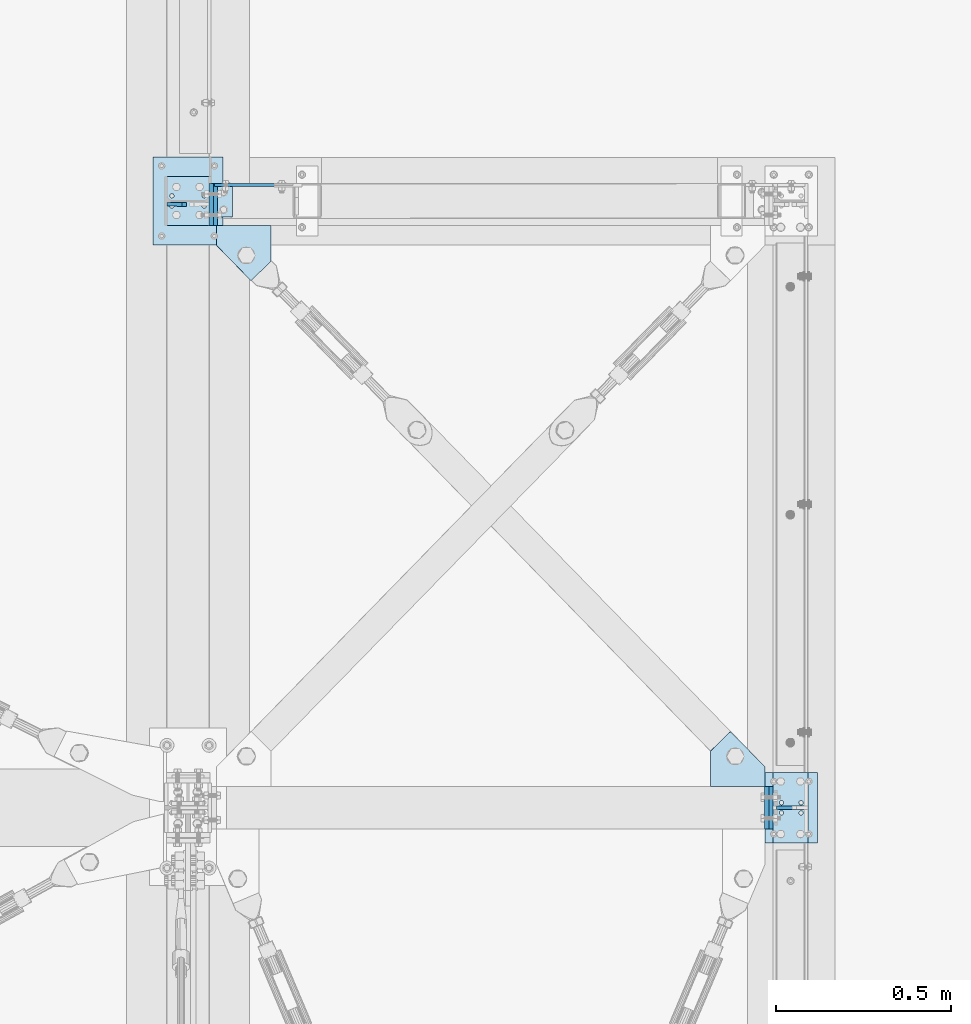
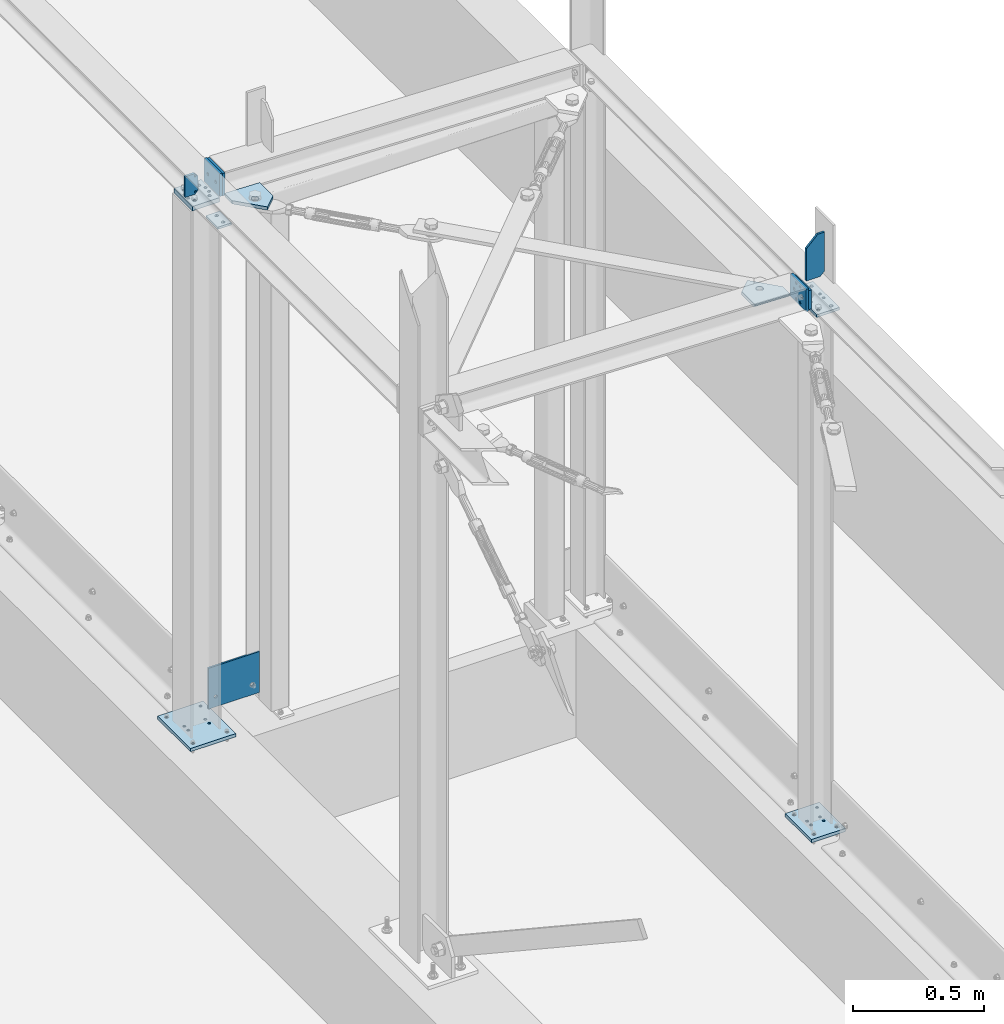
# One storey, part 63 of 476: 14 plates, 63 openings.
"""IFC2X3 building model written with IfcOpenShell, lengths in millimetres."""

from ifc_helpers import new_model, entity, si_unit, converted_unit, point, frame, frame_2d, origin, origin_with_axes, origin_2d_with_axis, place, context, project, spatial, polyline, circle_curve, line_curve, trimmed, segment, composite_curve, circle, outline, extrude, material, layer, layer_set, element, save


model = new_model("IFC2X3")

# Units and contexts
model_context = context("Model", 3, precision=1e-09, world=origin_with_axes())
ifc_project = project(units=[si_unit("LENGTHUNIT", "METRE", prefix="MILLI"), si_unit("AREAUNIT", "SQUARE_METRE"), si_unit("VOLUMEUNIT", "CUBIC_METRE"), converted_unit("PLANEANGLEUNIT", "DEGREE", entity("IfcPlaneAngleMeasure", 0.01745329), si_unit("PLANEANGLEUNIT", "RADIAN"), dimensions=[0, 0, 0, 0, 0, 0, 0])], contexts=[model_context])

# Site, building, storey
site_placement = place(None, origin_with_axes())
site = spatial("IfcSite", under=ifc_project, at=site_placement, Name="mKR Teilneubau & Sanierung BA1 - Ostfildern", CompositionType="ELEMENT")
building_placement = place(site_placement, origin_with_axes())
building = spatial("IfcBuilding", under=site, at=building_placement, Name="Struktur 1", CompositionType="ELEMENT")
storey_placement = place(building_placement, origin_with_axes())
storey = spatial("IfcBuildingStorey", under=building, at=storey_placement, Name="Default Storey", CompositionType="ELEMENT", Elevation=0.0)

# Plate, openings
ifc_material = material(Name="S235JR")
ifc_layer_1 = layer(ifc_material, 15.0)
ifc_layer_set_1 = layer_set([ifc_layer_1], Name="S235JR")
plate_1_placement = place(None, frame((22202.538978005, -4288.67387897, 3019.094751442), z_axis=(0.029057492, 0.0, 0.999577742), x_axis=(-0.999577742, 0.0, 0.029057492)))
plate_1 = element("IfcPlate", 1, at=plate_1_placement, inside=storey, material=ifc_layer_set_1, Name="-", ObjectType="-", context=model_context, shape_type="SweptSolid", body=[
    extrude(outline(polyline([(0.0, 0.0), (155.058825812, 0.0), (155.058825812, 57.239054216), (57.223526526, 157.380225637), (0.0, 101.474340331), (0.0, 0.0)])), origin_with_axes(), (0.0, 0.0, -1.0), 15.0),
])
opening_1_placement = place(plate_1_placement, frame((-0.001, 0.0, -15.0), z_axis=(1.0, 0.0, 0.0), x_axis=(0.0, 1.0, 0.0)))
element("IfcOpeningElement", 2, at=opening_1_placement, cuts=plate_1, ObjectType="Opening", context=model_context, shape_type="SweptSolid", body=[
    extrude(outline(polyline([(0.0, 0.0), (8.0, 0.0), (0.0, 8.0), (0.0, 0.0)])), origin(), (0.0, 0.0, 1.0), 155.080825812),
])
opening_2_placement = place(plate_1_placement, frame((70.541177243, 70.78287896, -15.5), z_axis=(0.0, 0.0, -1.0), x_axis=(-1.0, 0.0, 0.0)))
element("IfcOpeningElement", 3, at=opening_2_placement, cuts=plate_1, ObjectType="Opening", context=model_context, shape_type="SweptSolid", body=[
    extrude(circle(Radius=14.501, at=frame_2d((0.0, 14.501), x_axis=(1.0, 0.0))), origin(), (0.0, 0.0, -1.0), 16.0),
])

ifc_layer_2 = layer(ifc_material, 10.0)
ifc_layer_set_2 = layer_set([ifc_layer_2], Name="S235JR")
plate_2_placement = place(None, frame((23643.608764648, -5943.67387897, 3266.000000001), z_axis=(0.0, 1.0, 0.0), x_axis=(1.0, 0.0, 0.0)))
plate_2 = element("IfcPlate", 4, at=plate_2_placement, inside=storey, material=ifc_layer_set_2, Name="-", ObjectType="-", context=model_context, shape_type="SweptSolid", body=[
    extrude(outline(polyline([(0.0, 0.0), (80.0, 0.0), (80.0, 200.0), (0.0, 200.0), (0.0, 0.0)])), origin_with_axes(), (0.0, 0.0, -1.0), 10.0),
])
opening_3_placement = place(plate_2_placement, frame((0.0, 0.0, 0.01), z_axis=(0.0, 0.0, 1.0), x_axis=(1.0, 0.0, 0.0)))
element("IfcOpeningElement", 5, at=opening_3_placement, cuts=plate_2, ObjectType="Opening", context=model_context, shape_type="SweptSolid", body=[
    extrude(outline(polyline([(0.0, 0.0), (50.0, 0.0), (0.0, 50.0), (0.0, 0.0)])), origin(), (0.0, 0.0, -1.0), 10.02),
])
opening_4_placement = place(plate_2_placement, frame((80.0, 200.0, 0.01), z_axis=(0.0, 0.0, 1.0), x_axis=(-1.0, 0.0, 0.0)))
element("IfcOpeningElement", 6, at=opening_4_placement, cuts=plate_2, ObjectType="Opening", context=model_context, shape_type="SweptSolid", body=[
    extrude(outline(polyline([(0.0, 0.0), (20.0, 0.0), (0.0, 20.0), (0.0, 0.0)])), origin(), (0.0, 0.0, -1.0), 10.02),
])

plate_3_placement = place(None, frame((22062.108764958, -4218.67387897, 2845.0), z_axis=(0.0, 0.0, -1.0), x_axis=(1.0, 0.0, 0.0)))
plate_3 = element("IfcPlate", 7, at=plate_3_placement, inside=storey, material=ifc_layer_set_2, Name="-", ObjectType="-", context=model_context, shape_type="SweptSolid", body=[
    extrude(outline(polyline([(-30.0, -45.0), (30.0, -45.0), (30.0, 45.0), (-30.0, 45.0), (-30.0, -45.0)])), origin_with_axes(), (0.0, 0.0, -1.0), 10.0),
])
opening_5_placement = place(plate_3_placement, frame((-2.001, 25.0, 0.5), z_axis=(0.0, 0.0, 1.0), x_axis=(1.0, 0.0, 0.0)))
element("IfcOpeningElement", 8, at=opening_5_placement, cuts=plate_3, ObjectType="Opening", context=model_context, shape_type="SweptSolid", body=[
    extrude(circle(Radius=7.001, at=frame_2d((7.001, 0.0), x_axis=(1.0, 0.0))), origin(), (0.0, 0.0, -1.0), 11.0),
])
opening_6_placement = place(plate_3_placement, frame((-2.001, -25.0, 0.5), z_axis=(0.0, 0.0, 1.0), x_axis=(1.0, 0.0, 0.0)))
element("IfcOpeningElement", 9, at=opening_6_placement, cuts=plate_3, ObjectType="Opening", context=model_context, shape_type="SweptSolid", body=[
    extrude(circle(Radius=7.001, at=frame_2d((7.001, 0.0), x_axis=(1.0, 0.0))), origin(), (0.0, 0.0, -1.0), 11.0),
])

ifc_layer_3 = layer(ifc_material, 12.0)
ifc_layer_set_3 = layer_set([ifc_layer_3], Name="S235JR")
plate_4_placement = place(None, frame((23683.608764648, -5948.67387897, 2958.0), z_axis=(0.0, 0.0, 1.0), x_axis=(-1.0, 0.0, 0.0)))
plate_4 = element("IfcPlate", 10, at=plate_4_placement, inside=storey, material=ifc_layer_set_3, Name="Endplate", ObjectType="Endplate", context=model_context, shape_type="SweptSolid", body=[
    extrude(outline(polyline([(-50.0, -100.0), (50.0, -100.0), (50.0, 100.0), (-50.0, 100.0), (-50.0, -100.0)])), origin_with_axes(), (0.0, 0.0, 1.0), 12.0),
])
opening_7_placement = place(plate_4_placement, frame((26.0, -14.5, 12.5), z_axis=(0.0, 0.0, -1.0), x_axis=(1.0, 0.0, 0.0)))
element("IfcOpeningElement", 11, at=opening_7_placement, cuts=plate_4, ObjectType="Opening", context=model_context, shape_type="SweptSolid", body=[
    extrude(circle(Radius=6.001, at=origin_2d_with_axis()), origin(), (0.0, 0.0, 1.0), 13.0),
])
opening_8_placement = place(plate_4_placement, frame((-30.0, -14.5, 12.5), z_axis=(0.0, 0.0, -1.0), x_axis=(1.0, 0.0, 0.0)))
element("IfcOpeningElement", 12, at=opening_8_placement, cuts=plate_4, ObjectType="Opening", context=model_context, shape_type="SweptSolid", body=[
    extrude(circle(Radius=6.001, at=origin_2d_with_axis()), origin(), (0.0, 0.0, 1.0), 13.0),
])
opening_9_placement = place(plate_4_placement, frame((-30.0, 14.5, 12.5), z_axis=(0.0, 0.0, -1.0), x_axis=(1.0, 0.0, 0.0)))
element("IfcOpeningElement", 13, at=opening_9_placement, cuts=plate_4, ObjectType="Opening", context=model_context, shape_type="SweptSolid", body=[
    extrude(circle(Radius=6.001, at=origin_2d_with_axis()), origin(), (0.0, 0.0, 1.0), 13.0),
])
opening_10_placement = place(plate_4_placement, frame((26.0, 14.5, 12.5), z_axis=(0.0, 0.0, -1.0), x_axis=(1.0, 0.0, 0.0)))
element("IfcOpeningElement", 14, at=opening_10_placement, cuts=plate_4, ObjectType="Opening", context=model_context, shape_type="SweptSolid", body=[
    extrude(circle(Radius=6.001, at=origin_2d_with_axis()), origin(), (0.0, 0.0, 1.0), 13.0),
])
opening_11_placement = place(plate_4_placement, frame((-50.0, 50.001, 0.0), z_axis=(0.0, -1.0, 0.0), x_axis=(1.0, 0.0, 0.0)))
element("IfcOpeningElement", 15, at=opening_11_placement, cuts=plate_4, ObjectType="Opening", context=model_context, shape_type="SweptSolid", body=[
    extrude(outline(polyline([(0.0, 0.0), (4.0, 0.0), (0.0, 4.0), (0.0, 0.0)])), origin(), (0.0, 0.0, 1.0), 100.022),
])
opening_12_placement = place(plate_4_placement, frame((28.0, -67.999, -0.5), z_axis=(0.0, 0.0, -1.0), x_axis=(-1.0, 0.0, 0.0)))
element("IfcOpeningElement", 16, at=opening_12_placement, cuts=plate_4, ObjectType="Opening", context=model_context, shape_type="SweptSolid", body=[
    extrude(circle(Radius=7.001, at=frame_2d((0.0, -7.001), x_axis=(1.0, 0.0))), origin(), (0.0, 0.0, -1.0), 13.0),
])
opening_13_placement = place(plate_4_placement, frame((-28.0, 67.999, -0.5), z_axis=(0.0, 0.0, -1.0), x_axis=(-1.0, 0.0, 0.0)))
element("IfcOpeningElement", 17, at=opening_13_placement, cuts=plate_4, ObjectType="Opening", context=model_context, shape_type="SweptSolid", body=[
    extrude(circle(Radius=7.001, at=frame_2d((0.0, 7.001), x_axis=(1.0, 0.0))), origin(), (0.0, 0.0, -1.0), 13.0),
])
opening_14_placement = place(plate_4_placement, frame((-28.0, -67.999, -0.5), z_axis=(0.0, 0.0, -1.0), x_axis=(-1.0, 0.0, 0.0)))
element("IfcOpeningElement", 18, at=opening_14_placement, cuts=plate_4, ObjectType="Opening", context=model_context, shape_type="SweptSolid", body=[
    extrude(circle(Radius=7.001, at=frame_2d((0.0, -7.001), x_axis=(1.0, 0.0))), origin(), (0.0, 0.0, -1.0), 13.0),
])
opening_15_placement = place(plate_4_placement, frame((28.0, 67.999, -0.5), z_axis=(0.0, 0.0, -1.0), x_axis=(-1.0, 0.0, 0.0)))
element("IfcOpeningElement", 19, at=opening_15_placement, cuts=plate_4, ObjectType="Opening", context=model_context, shape_type="SweptSolid", body=[
    extrude(circle(Radius=7.001, at=frame_2d((0.0, 7.001), x_axis=(1.0, 0.0))), origin(), (0.0, 0.0, -1.0), 13.0),
])

plate_5_placement = place(None, frame((23454.614413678, -5888.67387897, 2967.690873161), z_axis=(0.029057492, 0.0, 0.999577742), x_axis=(0.999577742, 0.0, -0.029057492)))
plate_5 = element("IfcPlate", 20, at=plate_5_placement, inside=storey, material=ifc_layer_set_1, Name="-", ObjectType="-", context=model_context, shape_type="SweptSolid", body=[
    extrude(outline(polyline([(0.0, 0.0), (155.058825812, 0.0), (155.058825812, 57.239054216), (57.223526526, 157.380225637), (0.0, 101.474340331), (0.0, 0.0)])), origin_with_axes(), (0.0, 0.0, 1.0), 15.0),
])
opening_16_placement = place(plate_5_placement, frame((-0.001, 0.0, 0.0), z_axis=(1.0, 0.0, 0.0), x_axis=(0.0, 1.0, 0.0)))
element("IfcOpeningElement", 21, at=opening_16_placement, cuts=plate_5, ObjectType="Opening", context=model_context, shape_type="SweptSolid", body=[
    extrude(outline(polyline([(0.0, 0.0), (8.0, 0.0), (0.0, 8.0), (0.0, 0.0)])), origin(), (0.0, 0.0, 1.0), 155.080825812),
])
opening_17_placement = place(plate_5_placement, frame((70.610420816, 86.577287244, -0.5), z_axis=(0.0, 0.0, 1.0), x_axis=(0.0, 1.0, 0.0)))
element("IfcOpeningElement", 22, at=opening_17_placement, cuts=plate_5, ObjectType="Opening", context=model_context, shape_type="SweptSolid", body=[
    extrude(circle(Radius=14.501, at=origin_2d_with_axis()), origin(), (0.0, 0.0, 1.0), 16.0),
])

ifc_layer_4 = layer(ifc_material, 8.0)
ifc_layer_set_4 = layer_set([ifc_layer_4], Name="S235JR")
plate_6_placement = place(None, frame((22153.108264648, -4176.67387897, 655.0), z_axis=(0.0, 1.0, 0.0), x_axis=(0.0, 0.0, 1.0)))
plate_6 = element("IfcPlate", 23, at=plate_6_placement, inside=storey, material=ifc_layer_set_4, Name="-", ObjectType="-", context=model_context, shape_type="SweptSolid", body=[
    extrude(outline(polyline([(-95.0, -112.4995), (95.0, -112.4995), (95.0, 112.4995), (-95.0, 112.4995), (-95.0, -112.4995)])), origin_with_axes(), (0.0, 0.0, 1.0), 8.0),
])
opening_18_placement = place(plate_6_placement, frame((-47.0, 0.0, -0.5), z_axis=(0.0, 0.0, 1.0), x_axis=(0.0, -1.0, 0.0)))
element("IfcOpeningElement", 24, at=opening_18_placement, cuts=plate_6, ObjectType="Opening", context=model_context, shape_type="SweptSolid", body=[
    extrude(circle(Radius=7.001, at=frame_2d((80.0, 0.0), x_axis=(1.0, 0.0))), origin(), (0.0, 0.0, 1.0), 9.0),
])
opening_19_placement = place(plate_6_placement, frame((-47.0, 0.0, -0.5), z_axis=(0.0, 0.0, 1.0), x_axis=(0.0, -1.0, 0.0)))
element("IfcOpeningElement", 25, at=opening_19_placement, cuts=plate_6, ObjectType="Opening", context=model_context, shape_type="SweptSolid", body=[
    extrude(circle(Radius=7.001, at=frame_2d((-80.0, 0.0), x_axis=(1.0, 0.0))), origin(), (0.0, 0.0, 1.0), 9.0),
])

plate_7_placement = place(None, frame((22065.608764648, -4093.67387897, 540.0), z_axis=(0.0, 0.0, -1.0), x_axis=(0.0, -1.0, 0.0)))
plate_7 = element("IfcPlate", 26, at=plate_7_placement, inside=storey, material=ifc_layer_set_1, Name="Baseplate", ObjectType="Baseplate", context=model_context, shape_type="SweptSolid", body=[
    extrude(outline(polyline([(0.0, 0.0), (250.0, 0.0), (250.0, 200.0), (0.0, 200.0), (0.0, 0.0)])), origin_with_axes(), (0.0, 0.0, 1.0), 15.0),
])
opening_20_placement = place(plate_7_placement, frame((110.25, 146.0, 15.5), z_axis=(0.0, 0.0, -1.0), x_axis=(0.0, -1.0, 0.0)))
element("IfcOpeningElement", 27, at=opening_20_placement, cuts=plate_7, ObjectType="Opening", context=model_context, shape_type="SweptSolid", body=[
    extrude(circle(Radius=6.001, at=origin_2d_with_axis()), origin(), (0.0, 0.0, 1.0), 16.0),
])
opening_21_placement = place(plate_7_placement, frame((110.25, 54.0, 15.5), z_axis=(0.0, 0.0, -1.0), x_axis=(0.0, -1.0, 0.0)))
element("IfcOpeningElement", 28, at=opening_21_placement, cuts=plate_7, ObjectType="Opening", context=model_context, shape_type="SweptSolid", body=[
    extrude(circle(Radius=6.001, at=origin_2d_with_axis()), origin(), (0.0, 0.0, 1.0), 16.0),
])
opening_22_placement = place(plate_7_placement, frame((139.75, 54.0, 15.5), z_axis=(0.0, 0.0, -1.0), x_axis=(0.0, -1.0, 0.0)))
element("IfcOpeningElement", 29, at=opening_22_placement, cuts=plate_7, ObjectType="Opening", context=model_context, shape_type="SweptSolid", body=[
    extrude(circle(Radius=6.001, at=origin_2d_with_axis()), origin(), (0.0, 0.0, 1.0), 16.0),
])
opening_23_placement = place(plate_7_placement, frame((139.75, 146.0, 15.5), z_axis=(0.0, 0.0, -1.0), x_axis=(0.0, -1.0, 0.0)))
element("IfcOpeningElement", 30, at=opening_23_placement, cuts=plate_7, ObjectType="Opening", context=model_context, shape_type="SweptSolid", body=[
    extrude(circle(Radius=6.001, at=origin_2d_with_axis()), origin(), (0.0, 0.0, 1.0), 16.0),
])
opening_24_placement = place(plate_7_placement, frame((125.0, 100.0, 15.5), z_axis=(0.0, 0.0, -1.0), x_axis=(1.0, 0.0, 0.0)))
element("IfcOpeningElement", 31, at=opening_24_placement, cuts=plate_7, ObjectType="Opening", context=model_context, shape_type="SweptSolid", body=[
    extrude(circle(Radius=6.001, at=frame_2d((100.0, 75.0), x_axis=(1.0, 0.0))), origin(), (0.0, 0.0, 1.0), 16.0),
])
opening_25_placement = place(plate_7_placement, frame((125.0, 100.0, 15.5), z_axis=(0.0, 0.0, -1.0), x_axis=(1.0, 0.0, 0.0)))
element("IfcOpeningElement", 32, at=opening_25_placement, cuts=plate_7, ObjectType="Opening", context=model_context, shape_type="SweptSolid", body=[
    extrude(circle(Radius=6.001, at=frame_2d((-100.0, 75.0), x_axis=(1.0, 0.0))), origin(), (0.0, 0.0, 1.0), 16.0),
])
opening_26_placement = place(plate_7_placement, frame((125.0, 100.0, 15.5), z_axis=(0.0, 0.0, -1.0), x_axis=(1.0, 0.0, 0.0)))
element("IfcOpeningElement", 33, at=opening_26_placement, cuts=plate_7, ObjectType="Opening", context=model_context, shape_type="SweptSolid", body=[
    extrude(circle(Radius=6.001, at=frame_2d((100.0, -75.0), x_axis=(1.0, 0.0))), origin(), (0.0, 0.0, 1.0), 16.0),
])
opening_27_placement = place(plate_7_placement, frame((125.0, 100.0, 15.5), z_axis=(0.0, 0.0, -1.0), x_axis=(1.0, 0.0, 0.0)))
element("IfcOpeningElement", 34, at=opening_27_placement, cuts=plate_7, ObjectType="Opening", context=model_context, shape_type="SweptSolid", body=[
    extrude(circle(Radius=6.001, at=frame_2d((-100.0, -75.0), x_axis=(1.0, 0.0))), origin(), (0.0, 0.0, 1.0), 16.0),
])

plate_8_placement = place(None, frame((23760.608764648, -5848.67387897, 540.0), z_axis=(0.0, 0.0, -1.0), x_axis=(0.0, -1.0, 0.0)))
plate_8 = element("IfcPlate", 35, at=plate_8_placement, inside=storey, material=ifc_layer_set_1, Name="Baseplate", ObjectType="Baseplate", context=model_context, shape_type="SweptSolid", body=[
    extrude(outline(polyline([(0.0, 0.0), (200.0, 0.0), (200.0, 150.0), (0.0, 150.0), (0.0, 0.0)])), origin_with_axes(), (0.0, 0.0, 1.0), 15.0),
])
opening_28_placement = place(plate_8_placement, frame((85.5, 103.0, 15.5), z_axis=(0.0, 0.0, -1.0), x_axis=(0.0, -1.0, 0.0)))
element("IfcOpeningElement", 36, at=opening_28_placement, cuts=plate_8, ObjectType="Opening", context=model_context, shape_type="SweptSolid", body=[
    extrude(circle(Radius=6.001, at=origin_2d_with_axis()), origin(), (0.0, 0.0, 1.0), 16.0),
])
opening_29_placement = place(plate_8_placement, frame((85.5, 47.0, 15.5), z_axis=(0.0, 0.0, -1.0), x_axis=(0.0, -1.0, 0.0)))
element("IfcOpeningElement", 37, at=opening_29_placement, cuts=plate_8, ObjectType="Opening", context=model_context, shape_type="SweptSolid", body=[
    extrude(circle(Radius=6.001, at=origin_2d_with_axis()), origin(), (0.0, 0.0, 1.0), 16.0),
])
opening_30_placement = place(plate_8_placement, frame((114.5, 47.0, 15.5), z_axis=(0.0, 0.0, -1.0), x_axis=(0.0, -1.0, 0.0)))
element("IfcOpeningElement", 38, at=opening_30_placement, cuts=plate_8, ObjectType="Opening", context=model_context, shape_type="SweptSolid", body=[
    extrude(circle(Radius=6.001, at=origin_2d_with_axis()), origin(), (0.0, 0.0, 1.0), 16.0),
])
opening_31_placement = place(plate_8_placement, frame((114.5, 103.0, 15.5), z_axis=(0.0, 0.0, -1.0), x_axis=(0.0, -1.0, 0.0)))
element("IfcOpeningElement", 39, at=opening_31_placement, cuts=plate_8, ObjectType="Opening", context=model_context, shape_type="SweptSolid", body=[
    extrude(circle(Radius=6.001, at=origin_2d_with_axis()), origin(), (0.0, 0.0, 1.0), 16.0),
])
opening_32_placement = place(plate_8_placement, frame((100.0, 75.0, 15.5), z_axis=(0.0, 0.0, -1.0), x_axis=(1.0, 0.0, 0.0)))
element("IfcOpeningElement", 40, at=opening_32_placement, cuts=plate_8, ObjectType="Opening", context=model_context, shape_type="SweptSolid", body=[
    extrude(circle(Radius=6.001, at=frame_2d((75.0, 50.0), x_axis=(1.0, 0.0))), origin(), (0.0, 0.0, 1.0), 16.0),
])
opening_33_placement = place(plate_8_placement, frame((100.0, 75.0, 15.5), z_axis=(0.0, 0.0, -1.0), x_axis=(1.0, 0.0, 0.0)))
element("IfcOpeningElement", 41, at=opening_33_placement, cuts=plate_8, ObjectType="Opening", context=model_context, shape_type="SweptSolid", body=[
    extrude(circle(Radius=6.001, at=frame_2d((-75.0, 50.0), x_axis=(1.0, 0.0))), origin(), (0.0, 0.0, 1.0), 16.0),
])
opening_34_placement = place(plate_8_placement, frame((100.0, 75.0, 15.5), z_axis=(0.0, 0.0, -1.0), x_axis=(1.0, 0.0, 0.0)))
element("IfcOpeningElement", 42, at=opening_34_placement, cuts=plate_8, ObjectType="Opening", context=model_context, shape_type="SweptSolid", body=[
    extrude(circle(Radius=6.001, at=frame_2d((75.0, -50.0), x_axis=(1.0, 0.0))), origin(), (0.0, 0.0, 1.0), 16.0),
])
opening_35_placement = place(plate_8_placement, frame((100.0, 75.0, 15.5), z_axis=(0.0, 0.0, -1.0), x_axis=(1.0, 0.0, 0.0)))
element("IfcOpeningElement", 43, at=opening_35_placement, cuts=plate_8, ObjectType="Opening", context=model_context, shape_type="SweptSolid", body=[
    extrude(circle(Radius=6.001, at=frame_2d((-75.0, -50.0), x_axis=(1.0, 0.0))), origin(), (0.0, 0.0, 1.0), 16.0),
])

plate_9_placement = place(None, frame((23609.608764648, -5948.67387897, 3020.209302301), z_axis=(1.0, 0.0, 0.0), x_axis=(0.0, 0.0, -1.0)))
plate_9 = element("IfcPlate", 44, at=plate_9_placement, inside=storey, material=ifc_layer_set_3, Name="Endplate#1", ObjectType="Endplate#1", context=model_context, shape_type="SweptSolid", body=[
    extrude(outline(polyline([(-52.024078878, -60.0), (52.024078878, -60.0), (52.024078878, 60.0), (-52.024078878, 60.0), (-52.024078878, -60.0)])), origin_with_axes(), (0.0, 0.0, 1.0), 12.0),
])
opening_36_placement = place(plate_9_placement, frame((-37.020699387, -14.5, 12.5), z_axis=(0.0, 0.0, -1.0), x_axis=(1.0, 0.0, 0.0)))
element("IfcOpeningElement", 45, at=opening_36_placement, cuts=plate_9, ObjectType="Opening", context=model_context, shape_type="SweptSolid", body=[
    extrude(circle(Radius=6.001, at=origin_2d_with_axis()), origin(), (0.0, 0.0, 1.0), 13.0),
])
opening_37_placement = place(plate_9_placement, frame((37.020699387, -14.5, 12.5), z_axis=(0.0, 0.0, -1.0), x_axis=(1.0, 0.0, 0.0)))
element("IfcOpeningElement", 46, at=opening_37_placement, cuts=plate_9, ObjectType="Opening", context=model_context, shape_type="SweptSolid", body=[
    extrude(circle(Radius=6.001, at=origin_2d_with_axis()), origin(), (0.0, 0.0, 1.0), 13.0),
])
opening_38_placement = place(plate_9_placement, frame((37.020699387, 14.5, 12.5), z_axis=(0.0, 0.0, -1.0), x_axis=(1.0, 0.0, 0.0)))
element("IfcOpeningElement", 47, at=opening_38_placement, cuts=plate_9, ObjectType="Opening", context=model_context, shape_type="SweptSolid", body=[
    extrude(circle(Radius=6.001, at=origin_2d_with_axis()), origin(), (0.0, 0.0, 1.0), 13.0),
])
opening_39_placement = place(plate_9_placement, frame((-37.020699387, 14.5, 12.5), z_axis=(0.0, 0.0, -1.0), x_axis=(1.0, 0.0, 0.0)))
element("IfcOpeningElement", 48, at=opening_39_placement, cuts=plate_9, ObjectType="Opening", context=model_context, shape_type="SweptSolid", body=[
    extrude(circle(Radius=6.001, at=origin_2d_with_axis()), origin(), (0.0, 0.0, 1.0), 13.0),
])
opening_40_placement = place(plate_9_placement, frame((0.0, 30.0, 12.5), z_axis=(0.0, 0.0, -1.0), x_axis=(-1.0, 0.0, 0.0)))
element("IfcOpeningElement", 49, at=opening_40_placement, cuts=plate_9, ObjectType="Opening", context=model_context, shape_type="SweptSolid", body=[
    extrude(circle(Radius=7.001, at=origin_2d_with_axis()), origin(), (0.0, 0.0, 1.0), 13.0),
])
opening_41_placement = place(plate_9_placement, frame((0.0, -30.0, 12.5), z_axis=(0.0, 0.0, -1.0), x_axis=(0.0, -1.0, 0.0)))
element("IfcOpeningElement", 50, at=opening_41_placement, cuts=plate_9, ObjectType="Opening", context=model_context, shape_type="SweptSolid", body=[
    extrude(circle(Radius=7.001, at=origin_2d_with_axis()), origin(), (0.0, 0.0, 1.0), 13.0),
])

plate_10_placement = place(None, frame((23633.608764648, -5948.67387897, 3018.0), z_axis=(-1.0, 0.0, 0.0), x_axis=(0.0, -1.0, 0.0)))
plate_10 = element("IfcPlate", 51, at=plate_10_placement, inside=storey, material=ifc_layer_set_3, Name="T-plate", ObjectType="T-plate", context=model_context, shape_type="SweptSolid", body=[
    extrude(outline(polyline([(-60.0, -44.0), (60.0, -44.0), (60.0, 44.0), (-60.0, 44.0), (-60.0, -44.0)])), origin_with_axes(), (0.0, 0.0, 1.0), 12.0),
])
opening_42_placement = place(plate_10_placement, frame((30.0, 2.209302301, -0.5), z_axis=(0.0, 0.0, 1.0), x_axis=(1.0, 0.0, 0.0)))
element("IfcOpeningElement", 52, at=opening_42_placement, cuts=plate_10, ObjectType="Opening", context=model_context, shape_type="SweptSolid", body=[
    extrude(circle(Radius=7.001, at=origin_2d_with_axis()), origin(), (0.0, 0.0, 1.0), 13.0),
])
opening_43_placement = place(plate_10_placement, frame((-30.0, 2.209302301, -0.5), z_axis=(0.0, 0.0, 1.0), x_axis=(0.0, 1.0, 0.0)))
element("IfcOpeningElement", 53, at=opening_43_placement, cuts=plate_10, ObjectType="Opening", context=model_context, shape_type="SweptSolid", body=[
    extrude(circle(Radius=7.001, at=origin_2d_with_axis()), origin(), (0.0, 0.0, 1.0), 13.0),
])

ifc_layer_5 = layer(ifc_material, 20.0)
ifc_layer_set_5 = layer_set([ifc_layer_5], Name="S235JR")
plate_11_placement = place(None, frame((21965.608764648, -4218.67387897, 2991.000017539), z_axis=(0.0, 0.0, 1.0), x_axis=(-1.0, 0.0, 0.0)))
plate_11 = element("IfcPlate", 54, at=plate_11_placement, inside=storey, material=ifc_layer_set_5, Name="Endplate", ObjectType="Endplate", context=model_context, shape_type="SweptSolid", body=[
    extrude(outline(polyline([(-60.0, -70.0), (60.0, -70.0), (60.0, 70.0), (-60.0, 70.0), (-60.0, -70.0)])), origin_with_axes(), (0.0, 0.0, 1.0), 20.0),
])
opening_44_placement = place(plate_11_placement, frame((46.0, -14.75, 20.5), z_axis=(0.0, 0.0, -1.0), x_axis=(1.0, 0.0, 0.0)))
element("IfcOpeningElement", 55, at=opening_44_placement, cuts=plate_11, ObjectType="Opening", context=model_context, shape_type="SweptSolid", body=[
    extrude(circle(Radius=6.001, at=origin_2d_with_axis()), origin(), (0.0, 0.0, 1.0), 21.0),
])
opening_45_placement = place(plate_11_placement, frame((-46.0, -14.75, 20.5), z_axis=(0.0, 0.0, -1.0), x_axis=(1.0, 0.0, 0.0)))
element("IfcOpeningElement", 56, at=opening_45_placement, cuts=plate_11, ObjectType="Opening", context=model_context, shape_type="SweptSolid", body=[
    extrude(circle(Radius=6.001, at=origin_2d_with_axis()), origin(), (0.0, 0.0, 1.0), 21.0),
])
opening_46_placement = place(plate_11_placement, frame((-46.0, 14.75, 20.5), z_axis=(0.0, 0.0, -1.0), x_axis=(1.0, 0.0, 0.0)))
element("IfcOpeningElement", 57, at=opening_46_placement, cuts=plate_11, ObjectType="Opening", context=model_context, shape_type="SweptSolid", body=[
    extrude(circle(Radius=6.001, at=origin_2d_with_axis()), origin(), (0.0, 0.0, 1.0), 21.0),
])
opening_47_placement = place(plate_11_placement, frame((46.0, 14.75, 20.5), z_axis=(0.0, 0.0, -1.0), x_axis=(1.0, 0.0, 0.0)))
element("IfcOpeningElement", 58, at=opening_47_placement, cuts=plate_11, ObjectType="Opening", context=model_context, shape_type="SweptSolid", body=[
    extrude(circle(Radius=6.001, at=origin_2d_with_axis()), origin(), (0.0, 0.0, 1.0), 21.0),
])
opening_48_placement = place(plate_11_placement, frame((-33.0, 32.999, -0.5), z_axis=(0.0, 0.0, -1.0), x_axis=(-1.0, 0.0, 0.0)))
element("IfcOpeningElement", 59, at=opening_48_placement, cuts=plate_11, ObjectType="Opening", context=model_context, shape_type="SweptSolid", body=[
    extrude(circle(Radius=7.001, at=frame_2d((0.0, 7.001), x_axis=(1.0, 0.0))), origin(), (0.0, 0.0, -1.0), 21.0),
])
opening_49_placement = place(plate_11_placement, frame((33.0, 32.999, -0.5), z_axis=(0.0, 0.0, -1.0), x_axis=(-1.0, 0.0, 0.0)))
element("IfcOpeningElement", 60, at=opening_49_placement, cuts=plate_11, ObjectType="Opening", context=model_context, shape_type="SweptSolid", body=[
    extrude(circle(Radius=7.001, at=frame_2d((0.0, 7.001), x_axis=(1.0, 0.0))), origin(), (0.0, 0.0, -1.0), 21.0),
])
opening_50_placement = place(plate_11_placement, frame((33.0, -32.999, -0.5), z_axis=(0.0, 0.0, -1.0), x_axis=(-1.0, 0.0, 0.0)))
element("IfcOpeningElement", 61, at=opening_50_placement, cuts=plate_11, ObjectType="Opening", context=model_context, shape_type="SweptSolid", body=[
    extrude(circle(Radius=7.001, at=frame_2d((0.0, -7.001), x_axis=(1.0, 0.0))), origin(), (0.0, 0.0, -1.0), 21.0),
])
opening_51_placement = place(plate_11_placement, frame((-33.0, -32.999, -0.5), z_axis=(0.0, 0.0, -1.0), x_axis=(-1.0, 0.0, 0.0)))
element("IfcOpeningElement", 62, at=opening_51_placement, cuts=plate_11, ObjectType="Opening", context=model_context, shape_type="SweptSolid", body=[
    extrude(circle(Radius=7.001, at=frame_2d((0.0, -7.001), x_axis=(1.0, 0.0))), origin(), (0.0, 0.0, -1.0), 21.0),
])

plate_12_placement = place(None, frame((22049.608780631, -4228.67387897, 3065.558139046), z_axis=(-1.0, 0.0, 0.0), x_axis=(0.0, 0.0, -1.0)))
plate_12 = element("IfcPlate", 63, at=plate_12_placement, inside=storey, material=ifc_layer_set_3, Name="Endplate#1", ObjectType="Endplate#1", context=model_context, shape_type="SweptSolid", body=[
    extrude(outline(polyline([(-52.024078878, -60.0), (52.024078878, -60.0), (52.024078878, 60.0), (-52.024078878, 60.0), (-52.024078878, -60.0)])), origin_with_axes(), (0.0, 0.0, 1.0), 12.0),
])
opening_52_placement = place(plate_12_placement, frame((-37.020699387, 14.5, 12.5), z_axis=(0.0, 0.0, -1.0), x_axis=(-1.0, 0.0, 0.0)))
element("IfcOpeningElement", 64, at=opening_52_placement, cuts=plate_12, ObjectType="Opening", context=model_context, shape_type="SweptSolid", body=[
    extrude(circle(Radius=6.001, at=origin_2d_with_axis()), origin(), (0.0, 0.0, 1.0), 13.0),
])
opening_53_placement = place(plate_12_placement, frame((37.020699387, 14.5, 12.5), z_axis=(0.0, 0.0, -1.0), x_axis=(-1.0, 0.0, 0.0)))
element("IfcOpeningElement", 65, at=opening_53_placement, cuts=plate_12, ObjectType="Opening", context=model_context, shape_type="SweptSolid", body=[
    extrude(circle(Radius=6.001, at=origin_2d_with_axis()), origin(), (0.0, 0.0, 1.0), 13.0),
])
opening_54_placement = place(plate_12_placement, frame((37.020699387, -14.5, 12.5), z_axis=(0.0, 0.0, -1.0), x_axis=(-1.0, 0.0, 0.0)))
element("IfcOpeningElement", 66, at=opening_54_placement, cuts=plate_12, ObjectType="Opening", context=model_context, shape_type="SweptSolid", body=[
    extrude(circle(Radius=6.001, at=origin_2d_with_axis()), origin(), (0.0, 0.0, 1.0), 13.0),
])
opening_55_placement = place(plate_12_placement, frame((-37.020699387, -14.5, 12.5), z_axis=(0.0, 0.0, -1.0), x_axis=(-1.0, 0.0, 0.0)))
element("IfcOpeningElement", 67, at=opening_55_placement, cuts=plate_12, ObjectType="Opening", context=model_context, shape_type="SweptSolid", body=[
    extrude(circle(Radius=6.001, at=origin_2d_with_axis()), origin(), (0.0, 0.0, 1.0), 13.0),
])
opening_56_placement = place(plate_12_placement, frame((0.0, 30.0, 12.5), z_axis=(0.0, 0.0, -1.0), x_axis=(-1.0, 0.0, 0.0)))
element("IfcOpeningElement", 68, at=opening_56_placement, cuts=plate_12, ObjectType="Opening", context=model_context, shape_type="SweptSolid", body=[
    extrude(circle(Radius=7.001, at=origin_2d_with_axis()), origin(), (0.0, 0.0, 1.0), 13.0),
])
opening_57_placement = place(plate_12_placement, frame((0.0, -30.0, 12.5), z_axis=(0.0, 0.0, -1.0), x_axis=(0.0, -1.0, 0.0)))
element("IfcOpeningElement", 69, at=opening_57_placement, cuts=plate_12, ObjectType="Opening", context=model_context, shape_type="SweptSolid", body=[
    extrude(circle(Radius=7.001, at=origin_2d_with_axis()), origin(), (0.0, 0.0, 1.0), 13.0),
])

plate_13_placement = place(None, frame((22025.608780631, -4228.67387897, 3068.000017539), z_axis=(1.0, 0.0, 0.0), x_axis=(0.0, 1.0, 0.0)))
plate_13 = element("IfcPlate", 70, at=plate_13_placement, inside=storey, material=ifc_layer_set_3, Name="T-plate", ObjectType="T-plate", context=model_context, shape_type="SweptSolid", body=[
    extrude(outline(polyline([(-60.0, -53.0), (60.0, -53.0), (60.0, 53.0), (-60.0, 53.0), (-60.0, -53.0)])), origin_with_axes(), (0.0, 0.0, 1.0), 12.0),
])
opening_58_placement = place(plate_13_placement, frame((-30.0, -2.441878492, -0.5), z_axis=(0.0, 0.0, 1.0), x_axis=(0.0, 1.0, 0.0)))
element("IfcOpeningElement", 71, at=opening_58_placement, cuts=plate_13, ObjectType="Opening", context=model_context, shape_type="SweptSolid", body=[
    extrude(circle(Radius=7.001, at=origin_2d_with_axis()), origin(), (0.0, 0.0, 1.0), 13.0),
])
opening_59_placement = place(plate_13_placement, frame((30.0, -2.441878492, -0.5), z_axis=(0.0, 0.0, 1.0), x_axis=(1.0, 0.0, 0.0)))
element("IfcOpeningElement", 72, at=opening_59_placement, cuts=plate_13, ObjectType="Opening", context=model_context, shape_type="SweptSolid", body=[
    extrude(circle(Radius=7.001, at=origin_2d_with_axis()), origin(), (0.0, 0.0, 1.0), 13.0),
])

plate_14_placement = place(None, frame((21961.608780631, -4223.67387897, 3116.000017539), z_axis=(0.0, -1.0, 0.0), x_axis=(-1.0, 0.0, 0.0)))
plate_14 = element("IfcPlate", 73, at=plate_14_placement, inside=storey, material=ifc_layer_set_2, Name="Stiffener#2", ObjectType="Stiffener#2", context=model_context, shape_type="SweptSolid", body=[
    extrude(outline(polyline([(0.0, 0.0), (56.0, 0.0), (56.0, 96.0), (0.0, 96.0), (0.0, 0.0)])), origin_with_axes(), (0.0, 0.0, 1.0), 10.0),
])
opening_60_placement = place(plate_14_placement, frame((0.0, 0.0, -0.01), z_axis=(0.0, 0.0, 1.0), x_axis=(1.0, 0.0, 0.0)))
element("IfcOpeningElement", 74, at=opening_60_placement, cuts=plate_14, ObjectType="Opening", context=model_context, shape_type="SweptSolid", body=[
    extrude(outline(composite_curve([segment(trimmed(line_curve((0.0, 0.0), (1.0, 0.0), 13.0), [point((0.0, 0.0))], [point((13.0, 0.0))], True, "CARTESIAN"), True, "CONTINUOUS"), segment(trimmed(circle_curve(frame_2d((13.0, 13.0), x_axis=(-1.0, 0.0)), 13.0), [point((13.0, 0.0))], [point((0.0, 13.0))], False, "CARTESIAN"), True, "CONTINUOUS"), segment(trimmed(line_curve((0.0, 13.0), (0.0, -1.0), 13.0), [point((0.0, 13.0))], [point((0.0, 0.0))], True, "CARTESIAN"), True, "CONTINUOUS")], self_intersect=False)), origin(), (0.0, 0.0, 1.0), 10.02),
])
opening_61_placement = place(plate_14_placement, frame((0.0, 0.0, -0.01), z_axis=(0.0, 0.0, 1.0), x_axis=(1.0, 0.0, 0.0)))
element("IfcOpeningElement", 75, at=opening_61_placement, cuts=plate_14, ObjectType="Opening", context=model_context, shape_type="SweptSolid", body=[
    extrude(outline(composite_curve([segment(trimmed(line_curve((0.0, 96.0), (0.0, -1.0), 13.0), [point((0.0, 96.0))], [point((0.0, 83.0))], True, "CARTESIAN"), True, "CONTINUOUS"), segment(trimmed(circle_curve(frame_2d((13.0, 83.0), x_axis=(-1.0, 0.0)), 13.0), [point((0.0, 83.0))], [point((13.0, 96.0))], False, "CARTESIAN"), True, "CONTINUOUS"), segment(trimmed(line_curve((13.0, 96.0), (-1.0, 0.0), 13.0), [point((13.0, 96.0))], [point((0.0, 96.0))], True, "CARTESIAN"), True, "CONTINUOUS")], self_intersect=False)), origin(), (0.0, 0.0, 1.0), 10.02),
])
opening_62_placement = place(plate_14_placement, frame((10.5, 85.0, -0.5), z_axis=(0.0, 0.0, 1.0), x_axis=(0.0, -1.0, 0.0)))
element("IfcOpeningElement", 76, at=opening_62_placement, cuts=plate_14, ObjectType="Opening", context=model_context, shape_type="SweptSolid", body=[
    extrude(circle(Radius=5.001, at=origin_2d_with_axis()), origin(), (0.0, 0.0, 1.0), 11.0),
])
opening_63_placement = place(plate_14_placement, frame((10.5, 11.0, -0.5), z_axis=(0.0, 0.0, 1.0), x_axis=(0.0, -1.0, 0.0)))
element("IfcOpeningElement", 77, at=opening_63_placement, cuts=plate_14, ObjectType="Opening", context=model_context, shape_type="SweptSolid", body=[
    extrude(circle(Radius=5.001, at=origin_2d_with_axis()), origin(), (0.0, 0.0, 1.0), 11.0),
])

save(model, "model.ifc")
